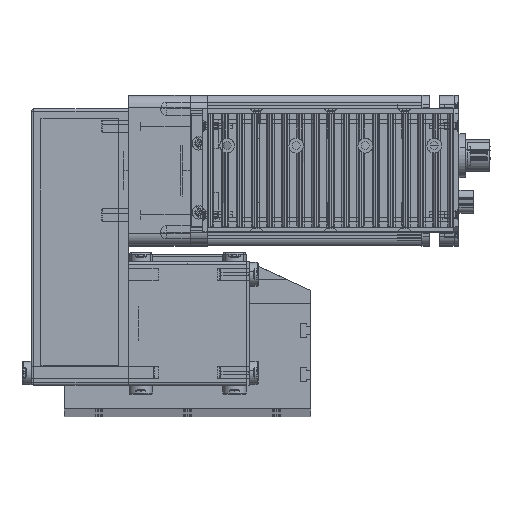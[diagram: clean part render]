
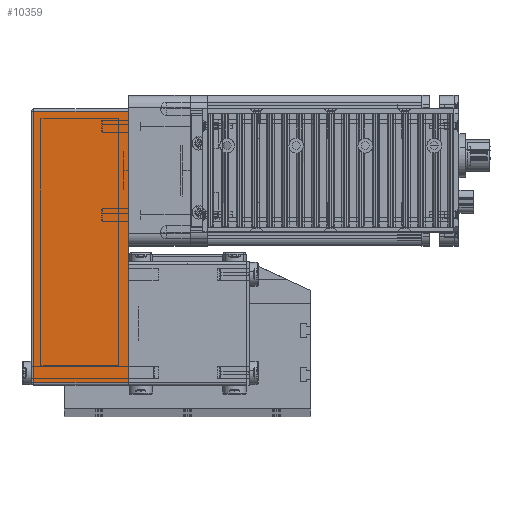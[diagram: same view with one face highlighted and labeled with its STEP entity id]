
A CAD part, top view. The second image highlights one B-rep face of the part: STEP entity #10359.
In plain terms, the highlighted planar face has unit normal (0, 0, 1) as drawn and (0, -1, 0) by its records, which use the part's own axes.
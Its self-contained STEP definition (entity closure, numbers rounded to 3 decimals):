
#10200 = VERTEX_POINT ( 'NONE', #43953 ) ;
#10209 = VERTEX_POINT ( 'NONE', #43973 ) ;
#10222 = EDGE_CURVE ( 'NONE', #10239, #10224, #44006, .T. ) ;
#10224 = VERTEX_POINT ( 'NONE', #44017 ) ;
#10239 = VERTEX_POINT ( 'NONE', #44042 ) ;
#10279 = EDGE_CURVE ( 'NONE', #10200, #10209, #44090, .T. ) ;
#10292 = EDGE_CURVE ( 'NONE', #10239, #10209, #44124, .T. ) ;
#10305 = EDGE_LOOP ( 'NONE', ( #10349, #10358, #10357, #10339 ) ) ;
#10339 = ORIENTED_EDGE ( 'NONE', *, *, #10356, .F. ) ;
#10349 = ORIENTED_EDGE ( 'NONE', *, *, #10222, .F. ) ;
#10356 = EDGE_CURVE ( 'NONE', #10224, #10200, #44311, .T. ) ;
#10357 = ORIENTED_EDGE ( 'NONE', *, *, #10279, .F. ) ;
#10358 = ORIENTED_EDGE ( 'NONE', *, *, #10292, .T. ) ;
#10359 = ADVANCED_FACE ( 'NONE', ( #44276 ), #44256, .F. ) ;
#43953 = CARTESIAN_POINT ( 'NONE',  ( 61., -25., 38.5 ) ) ;
#43973 = CARTESIAN_POINT ( 'NONE',  ( 61., -25., 0. ) ) ;
#44003 = DIRECTION ( 'NONE',  ( 0., 0., 1. ) ) ;
#44004 = VECTOR ( 'NONE', #44003, 1000. ) ;
#44005 = CARTESIAN_POINT ( 'NONE',  ( -49., -25., 39.5 ) ) ;
#44006 = LINE ( 'NONE', #44005, #44004 ) ;
#44017 = CARTESIAN_POINT ( 'NONE',  ( -49., -25., 38.5 ) ) ;
#44042 = CARTESIAN_POINT ( 'NONE',  ( -49., -25., 0. ) ) ;
#44087 = DIRECTION ( 'NONE',  ( 0., 0., -1. ) ) ;
#44088 = VECTOR ( 'NONE', #44087, 1000. ) ;
#44089 = CARTESIAN_POINT ( 'NONE',  ( 61., -25., 39.5 ) ) ;
#44090 = LINE ( 'NONE', #44089, #44088 ) ;
#44121 = DIRECTION ( 'NONE',  ( 1., 0., 0. ) ) ;
#44122 = VECTOR ( 'NONE', #44121, 1000. ) ;
#44123 = CARTESIAN_POINT ( 'NONE',  ( -50., -25., 0. ) ) ;
#44124 = LINE ( 'NONE', #44123, #44122 ) ;
#44256 = PLANE ( 'NONE',  #44347 ) ;
#44276 = FACE_OUTER_BOUND ( 'NONE', #10305, .T. ) ;
#44310 = CARTESIAN_POINT ( 'NONE',  ( -50., -25., 38.5 ) ) ;
#44311 = LINE ( 'NONE', #44310, #44351 ) ;
#44342 = DIRECTION ( 'NONE',  ( 0., 0., 1. ) ) ;
#44343 = DIRECTION ( 'NONE',  ( 0., 1., 0. ) ) ;
#44344 = CARTESIAN_POINT ( 'NONE',  ( -50., -25., 39.5 ) ) ;
#44347 = AXIS2_PLACEMENT_3D ( 'NONE', #44344, #44343, #44342 ) ;
#44350 = DIRECTION ( 'NONE',  ( 1., 0., 0. ) ) ;
#44351 = VECTOR ( 'NONE', #44350, 1000. ) ;
